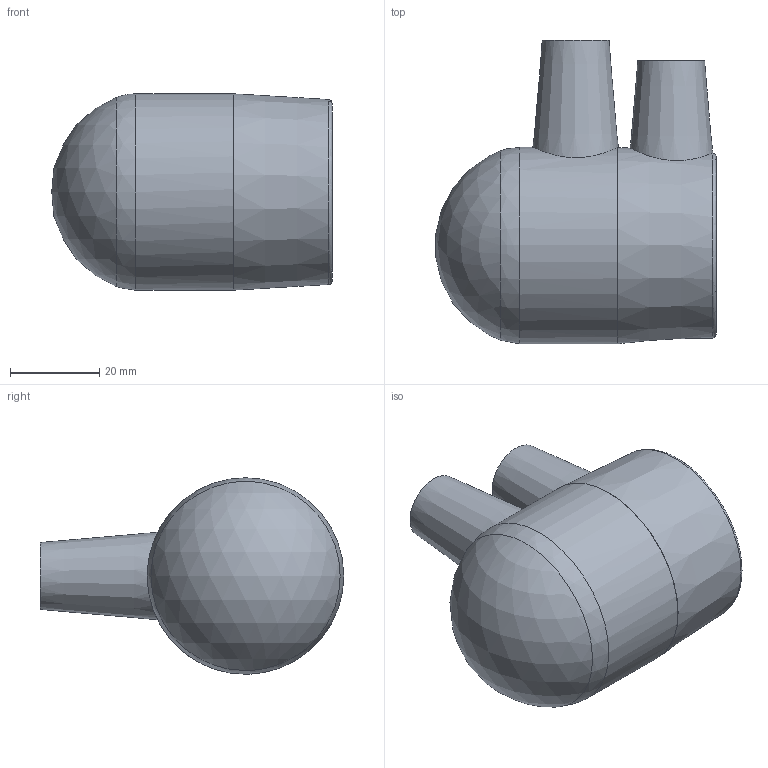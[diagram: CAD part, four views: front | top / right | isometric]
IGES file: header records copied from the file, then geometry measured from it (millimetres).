
Global section: file name: 494204032.ipt; native system: Autodesk Inventor 2015; preprocessor: unknown; author: Кирилл,,11,0; organization: 20170630.203301; date: 20171106.094137; units: millimetre
Bounding box: 62.83 x 68 x 44 mm (x, y, z)
Volume: 49647.2 mm3; surface area: 18501.8 mm2
Topology: 1 solids, 1 shells, 47 faces, 112 edges, 73 vertices
Faces by surface type: plane 24, revolution 16, cylinder 3, cone 3, sphere 1
Full cylindrical faces by diameter (mm): 4 x2, 44 x1
